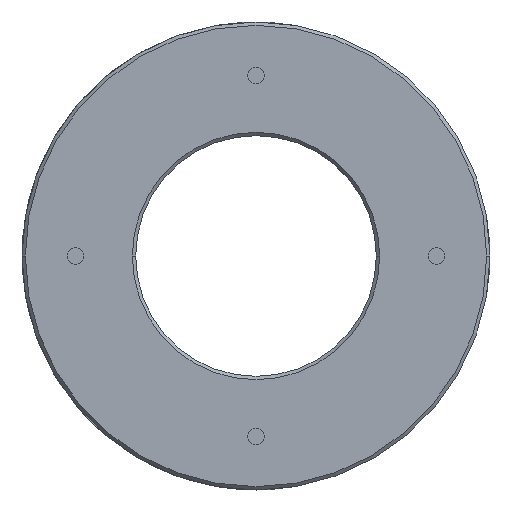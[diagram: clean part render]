
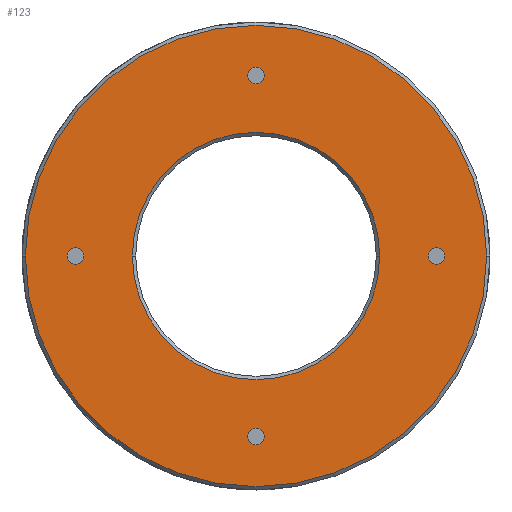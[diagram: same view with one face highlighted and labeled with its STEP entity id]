
A CAD part, front view. The second image highlights one B-rep face of the part: STEP entity #123.
In plain terms, the highlighted planar face has unit normal (0, -1, 0).
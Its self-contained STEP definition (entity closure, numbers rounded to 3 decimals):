
#3 = VERTEX_POINT ( 'NONE', #2061 ) ;
#41 = CARTESIAN_POINT ( 'NONE',  ( 27., 16.684, 1.25 ) ) ;
#67 = DIRECTION ( 'NONE',  ( 0., 0., -1. ) ) ;
#81 = DIRECTION ( 'NONE',  ( 0., 0., 1. ) ) ;
#123 = ADVANCED_FACE ( 'NONE', ( #1350, #3395, #2432, #1700, #740, #3501 ), #3980, .F. ) ;
#131 = ORIENTED_EDGE ( 'NONE', *, *, #180, .F. ) ;
#170 = VERTEX_POINT ( 'NONE', #4397 ) ;
#180 = EDGE_CURVE ( 'NONE', #252, #1226, #1813, .T. ) ;
#194 = ORIENTED_EDGE ( 'NONE', *, *, #3858, .F. ) ;
#208 = DIRECTION ( 'NONE',  ( -1., 0., 0. ) ) ;
#252 = VERTEX_POINT ( 'NONE', #1744 ) ;
#368 = DIRECTION ( 'NONE',  ( 0., 0., -1. ) ) ;
#431 = DIRECTION ( 'NONE',  ( 0., 0., -1. ) ) ;
#437 = CARTESIAN_POINT ( 'NONE',  ( 0., 16.684, 0. ) ) ;
#456 = DIRECTION ( 'NONE',  ( -1., 0., 0. ) ) ;
#464 = CIRCLE ( 'NONE', #3825, 34.5 ) ;
#479 = DIRECTION ( 'NONE',  ( 0., 0., -1. ) ) ;
#498 = AXIS2_PLACEMENT_3D ( 'NONE', #1371, #3517, #1755 ) ;
#559 = DIRECTION ( 'NONE',  ( 0., 0., -1. ) ) ;
#624 = EDGE_CURVE ( 'NONE', #170, #2855, #3789, .T. ) ;
#657 = CIRCLE ( 'NONE', #498, 18.5 ) ;
#675 = ORIENTED_EDGE ( 'NONE', *, *, #1000, .F. ) ;
#740 = FACE_BOUND ( 'NONE', #4561, .T. ) ;
#743 = EDGE_CURVE ( 'NONE', #1915, #2641, #464, .T. ) ;
#764 = DIRECTION ( 'NONE',  ( 0., 1., 0. ) ) ;
#831 = ORIENTED_EDGE ( 'NONE', *, *, #624, .F. ) ;
#877 = CARTESIAN_POINT ( 'NONE',  ( 0., 16.684, -27. ) ) ;
#961 = ORIENTED_EDGE ( 'NONE', *, *, #3619, .F. ) ;
#1000 = EDGE_CURVE ( 'NONE', #1586, #3, #3160, .T. ) ;
#1062 = VERTEX_POINT ( 'NONE', #2091 ) ;
#1087 = AXIS2_PLACEMENT_3D ( 'NONE', #4431, #3694, #3062 ) ;
#1120 = AXIS2_PLACEMENT_3D ( 'NONE', #1634, #4155, #1992 ) ;
#1171 = VERTEX_POINT ( 'NONE', #2167 ) ;
#1176 = EDGE_LOOP ( 'NONE', ( #2199, #3890 ) ) ;
#1226 = VERTEX_POINT ( 'NONE', #3021 ) ;
#1239 = DIRECTION ( 'NONE',  ( 0., -1., 0. ) ) ;
#1317 = DIRECTION ( 'NONE',  ( 1., 0., 0. ) ) ;
#1321 = EDGE_CURVE ( 'NONE', #2855, #170, #3534, .T. ) ;
#1330 = DIRECTION ( 'NONE',  ( 0., -1., 0. ) ) ;
#1350 = FACE_BOUND ( 'NONE', #3787, .T. ) ;
#1367 = CARTESIAN_POINT ( 'NONE',  ( 0., 16.684, 0. ) ) ;
#1371 = CARTESIAN_POINT ( 'NONE',  ( 0., 16.684, 0. ) ) ;
#1398 = CARTESIAN_POINT ( 'NONE',  ( 0., 16.684, -25.75 ) ) ;
#1471 = CARTESIAN_POINT ( 'NONE',  ( 0., 16.684, 25.75 ) ) ;
#1586 = VERTEX_POINT ( 'NONE', #4284 ) ;
#1634 = CARTESIAN_POINT ( 'NONE',  ( -27., 16.684, 0. ) ) ;
#1648 = EDGE_LOOP ( 'NONE', ( #831, #4415 ) ) ;
#1686 = CIRCLE ( 'NONE', #1087, 1.25 ) ;
#1700 = FACE_BOUND ( 'NONE', #4004, .T. ) ;
#1722 = EDGE_CURVE ( 'NONE', #3987, #1171, #1686, .T. ) ;
#1732 = AXIS2_PLACEMENT_3D ( 'NONE', #3329, #2583, #431 ) ;
#1744 = CARTESIAN_POINT ( 'NONE',  ( -27., 16.684, 1.25 ) ) ;
#1753 = CARTESIAN_POINT ( 'NONE',  ( 0., 16.684, 27. ) ) ;
#1755 = DIRECTION ( 'NONE',  ( 1., 0., 0. ) ) ;
#1762 = EDGE_CURVE ( 'NONE', #1171, #3987, #2419, .T. ) ;
#1765 = DIRECTION ( 'NONE',  ( 0., -1., 0. ) ) ;
#1813 = CIRCLE ( 'NONE', #1732, 1.25 ) ;
#1915 = VERTEX_POINT ( 'NONE', #2728 ) ;
#1992 = DIRECTION ( 'NONE',  ( 0., 0., -1. ) ) ;
#2032 = AXIS2_PLACEMENT_3D ( 'NONE', #3956, #4344, #67 ) ;
#2061 = CARTESIAN_POINT ( 'NONE',  ( -18.5, 16.684, 0. ) ) ;
#2091 = CARTESIAN_POINT ( 'NONE',  ( 0., 16.684, 28.25 ) ) ;
#2130 = CIRCLE ( 'NONE', #4236, 1.25 ) ;
#2167 = CARTESIAN_POINT ( 'NONE',  ( 0., 16.684, -28.25 ) ) ;
#2187 = AXIS2_PLACEMENT_3D ( 'NONE', #1367, #1330, #1317 ) ;
#2199 = ORIENTED_EDGE ( 'NONE', *, *, #1762, .F. ) ;
#2256 = DIRECTION ( 'NONE',  ( 0., 1., 0. ) ) ;
#2419 = CIRCLE ( 'NONE', #4426, 1.25 ) ;
#2432 = FACE_BOUND ( 'NONE', #1648, .T. ) ;
#2527 = DIRECTION ( 'NONE',  ( 0., 0., -1. ) ) ;
#2583 = DIRECTION ( 'NONE',  ( 0., -1., 0. ) ) ;
#2628 = DIRECTION ( 'NONE',  ( 0., -1., 0. ) ) ;
#2641 = VERTEX_POINT ( 'NONE', #2726 ) ;
#2698 = DIRECTION ( 'NONE',  ( 0., 1., 0. ) ) ;
#2720 = ORIENTED_EDGE ( 'NONE', *, *, #4246, .F. ) ;
#2726 = CARTESIAN_POINT ( 'NONE',  ( 34.5, 16.684, 0. ) ) ;
#2728 = CARTESIAN_POINT ( 'NONE',  ( -34.5, 16.684, 0. ) ) ;
#2744 = CARTESIAN_POINT ( 'NONE',  ( 0., 16.684, 0. ) ) ;
#2794 = EDGE_CURVE ( 'NONE', #3, #1586, #657, .T. ) ;
#2840 = CARTESIAN_POINT ( 'NONE',  ( 27., 16.684, 0. ) ) ;
#2855 = VERTEX_POINT ( 'NONE', #41 ) ;
#2869 = AXIS2_PLACEMENT_3D ( 'NONE', #2744, #2698, #208 ) ;
#2936 = VERTEX_POINT ( 'NONE', #1471 ) ;
#2993 = CIRCLE ( 'NONE', #2032, 1.25 ) ;
#3021 = CARTESIAN_POINT ( 'NONE',  ( -27., 16.684, -1.25 ) ) ;
#3062 = DIRECTION ( 'NONE',  ( 0., 0., -1. ) ) ;
#3160 = CIRCLE ( 'NONE', #2187, 18.5 ) ;
#3171 = ORIENTED_EDGE ( 'NONE', *, *, #2794, .F. ) ;
#3270 = CIRCLE ( 'NONE', #1120, 1.25 ) ;
#3329 = CARTESIAN_POINT ( 'NONE',  ( -27., 16.684, 0. ) ) ;
#3369 = EDGE_CURVE ( 'NONE', #2936, #1062, #2993, .T. ) ;
#3395 = FACE_BOUND ( 'NONE', #1176, .T. ) ;
#3456 = ORIENTED_EDGE ( 'NONE', *, *, #743, .F. ) ;
#3492 = AXIS2_PLACEMENT_3D ( 'NONE', #3806, #1239, #559 ) ;
#3501 = FACE_OUTER_BOUND ( 'NONE', #3604, .T. ) ;
#3517 = DIRECTION ( 'NONE',  ( 0., -1., 0. ) ) ;
#3534 = CIRCLE ( 'NONE', #3492, 1.25 ) ;
#3546 = DIRECTION ( 'NONE',  ( 0., -1., 0. ) ) ;
#3604 = EDGE_LOOP ( 'NONE', ( #3456, #2720 ) ) ;
#3619 = EDGE_CURVE ( 'NONE', #1226, #252, #3270, .T. ) ;
#3694 = DIRECTION ( 'NONE',  ( 0., -1., 0. ) ) ;
#3739 = AXIS2_PLACEMENT_3D ( 'NONE', #2840, #3546, #2527 ) ;
#3787 = EDGE_LOOP ( 'NONE', ( #961, #131 ) ) ;
#3789 = CIRCLE ( 'NONE', #3739, 1.25 ) ;
#3806 = CARTESIAN_POINT ( 'NONE',  ( 27., 16.684, 0. ) ) ;
#3825 = AXIS2_PLACEMENT_3D ( 'NONE', #437, #2256, #456 ) ;
#3858 = EDGE_CURVE ( 'NONE', #1062, #2936, #2130, .T. ) ;
#3880 = ORIENTED_EDGE ( 'NONE', *, *, #3369, .F. ) ;
#3890 = ORIENTED_EDGE ( 'NONE', *, *, #1722, .F. ) ;
#3956 = CARTESIAN_POINT ( 'NONE',  ( 0., 16.684, 27. ) ) ;
#3980 = PLANE ( 'NONE',  #4331 ) ;
#3987 = VERTEX_POINT ( 'NONE', #1398 ) ;
#4004 = EDGE_LOOP ( 'NONE', ( #3880, #194 ) ) ;
#4117 = CIRCLE ( 'NONE', #2869, 34.5 ) ;
#4155 = DIRECTION ( 'NONE',  ( 0., -1., 0. ) ) ;
#4236 = AXIS2_PLACEMENT_3D ( 'NONE', #1753, #1765, #368 ) ;
#4246 = EDGE_CURVE ( 'NONE', #2641, #1915, #4117, .T. ) ;
#4284 = CARTESIAN_POINT ( 'NONE',  ( 18.5, 16.684, 0. ) ) ;
#4331 = AXIS2_PLACEMENT_3D ( 'NONE', #4358, #764, #81 ) ;
#4344 = DIRECTION ( 'NONE',  ( 0., -1., 0. ) ) ;
#4358 = CARTESIAN_POINT ( 'NONE',  ( 0., 16.684, 0. ) ) ;
#4397 = CARTESIAN_POINT ( 'NONE',  ( 27., 16.684, -1.25 ) ) ;
#4415 = ORIENTED_EDGE ( 'NONE', *, *, #1321, .F. ) ;
#4426 = AXIS2_PLACEMENT_3D ( 'NONE', #877, #2628, #479 ) ;
#4431 = CARTESIAN_POINT ( 'NONE',  ( 0., 16.684, -27. ) ) ;
#4561 = EDGE_LOOP ( 'NONE', ( #675, #3171 ) ) ;
